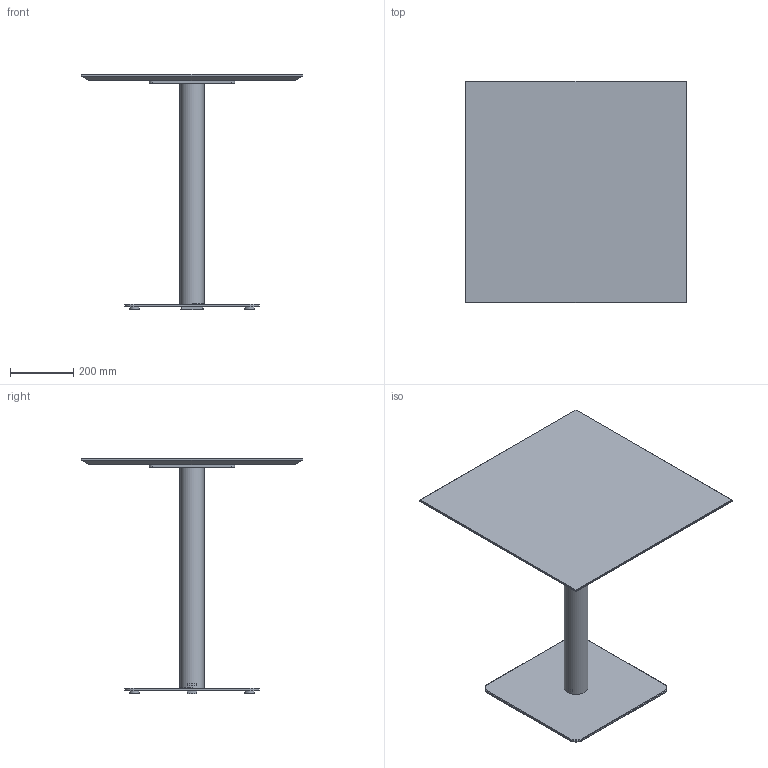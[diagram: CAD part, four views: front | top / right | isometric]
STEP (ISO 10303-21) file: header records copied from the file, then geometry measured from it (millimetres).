
FILE_DESCRIPTION( ('This file contains a STEP AP42 implementation' ,'as created by ZW3D STEP Interface translator.') ,'2;1' );
FILE_NAME( 'Henri - B_Carré - F4 - M5 - 700 x 700 x 750.stp' ,'24 912.1734 3', (''), ('ZWCAD Software Co.'), 'Version 1.0', 'ZW3D to STEP translator', '' );
FILE_SCHEMA(('AUTOMOTIVE_DESIGN { 1 0 10303 214 1 1 1 1 }'));
Length unit declared in the file: millimetre
Products named in the file (14): 0; PIED BISTROT PARAMETRIQUE_; COLONNE ACIER Ø76 V.02_; TUB-D076-02_; PLA-R76B-01_; CROIX ACIER 370 V.02_; CRX-X370-02_; SOCLE ACIER L 425x425 V.02_; SCL-R425-02_; PLA-R30A-01_; PLA-R30A-01; WUERTH 0276063020 Euro-screw 6.3x2 Verzinkt_; PLATEAU BISTROT PARAMETRIQUE_; insert_m6_13_
Assembly tree (22 placements, depth 3):
  0
  PIED BISTROT PARAMETRIQUE_
    COLONNE ACIER Ø76 V.02_
      TUB-D076-02_
      PLA-R76B-01_  x2
    CROIX ACIER 370 V.02_
      CRX-X370-02_
    SOCLE ACIER L 425x425 V.02_
      SCL-R425-02_
      PLA-R30A-01_
      PLA-R30A-01  x3
    WUERTH 0276063020 Euro-screw 6.3x2 Verzinkt_
    PLATEAU BISTROT PARAMETRIQUE_
      insert_m6_13_  x8
Bounding box: 700 x 700 x 744 mm (x, y, z)
Volume: 11642559 mm3; surface area: 1895652.6 mm2
Topology: 19 solids, 19 shells, 533 faces, 1306 edges, 818 vertices
Faces by surface type: plane 262, bspline 125, cylinder 98, cone 47, torus 1
Full cylindrical faces by diameter (mm): 4.88 x1, 6 x8, 6.3 x1, 8 x45, 12 x2, 14 x2, 30 x4, 72 x1, 76 x1
Entity records: 12210 total; most frequent: CARTESIAN_POINT 3408, ORIENTED_EDGE 1608, DIRECTION 1483, EDGE_CURVE 804, VERTEX_POINT 514, VECTOR 509, LINE 509, AXIS2_PLACEMENT_3D 487
